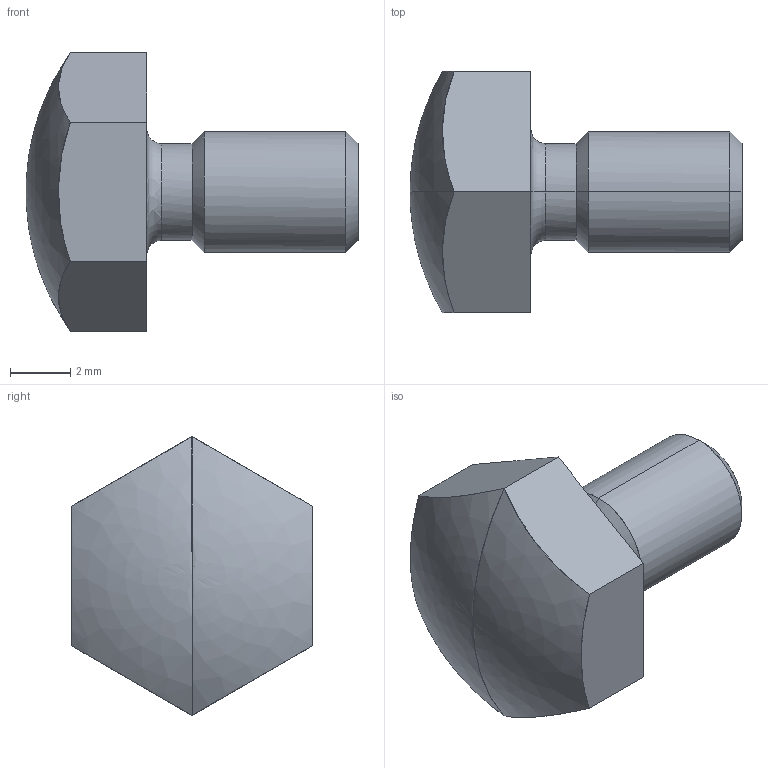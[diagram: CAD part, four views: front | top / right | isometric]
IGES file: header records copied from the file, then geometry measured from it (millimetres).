
Start section:  PTC IGES file: BS_42.igs
Global section: file name: BS_42.igs; native system: Pro/ENGINEER by Parametric Technology Corporation; preprocessor: 2010040; author: chad.steele; organization: Unknown; date: 20100913.141737; units: millimetre
Bounding box: 11 x 8 x 9.24 mm (x, y, z)
Surface area: 277.8 mm2 (no closed solid volume)
Topology: 0 solids, 0 shells, 20 faces, 86 edges, 84 vertices
Faces by surface type: revolution 12, bspline 8
